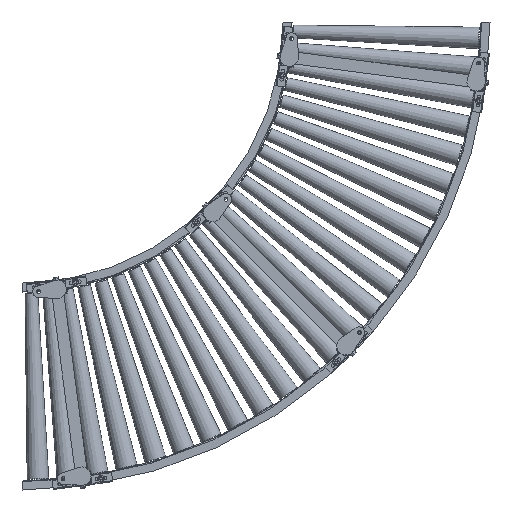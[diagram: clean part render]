
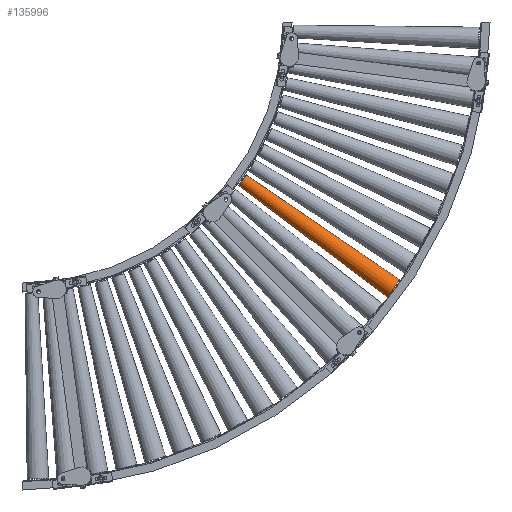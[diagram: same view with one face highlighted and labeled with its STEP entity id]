
A CAD part, front view. The second image highlights one B-rep face of the part: STEP entity #135996.
In plain terms, the highlighted conical face has half-angle 1.345 degrees and reference radius 35.9 mm.
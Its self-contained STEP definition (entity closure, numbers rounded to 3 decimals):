
#3444 = EDGE_CURVE ( 'NONE', #85838, #30092, #84588, .T. ) ;
#6799 = CARTESIAN_POINT ( 'NONE',  ( 1238.447, -35.89, -888.348 ) ) ;
#11544 = FACE_OUTER_BOUND ( 'NONE', #136651, .T. ) ;
#13012 = CARTESIAN_POINT ( 'NONE',  ( 1217.522, -35.89, -917.519 ) ) ;
#15353 = EDGE_CURVE ( 'NONE', #137984, #32886, #60637, .T. ) ;
#19403 = CARTESIAN_POINT ( 'NONE',  ( 1238.447, -35.89, -888.348 ) ) ;
#25048 = DIRECTION ( 'NONE',  ( 0.798, -0.023, -0.602 ) ) ;
#30092 = VERTEX_POINT ( 'NONE', #119616 ) ;
#32886 = VERTEX_POINT ( 'NONE', #98473 ) ;
#33463 = VECTOR ( 'NONE', #25048, 1000. ) ;
#34860 = ORIENTED_EDGE ( 'NONE', *, *, #82496, .F. ) ;
#45828 = DIRECTION ( 'NONE',  ( 0.583, 0., 0.813 ) ) ;
#49129 = AXIS2_PLACEMENT_3D ( 'NONE', #6799, #91367, #102947 ) ;
#58508 = CARTESIAN_POINT ( 'NONE',  ( 734.931, -21.344, -527.172 ) ) ;
#60150 = DIRECTION ( 'NONE',  ( 0.826, -0.023, -0.563 ) ) ;
#60637 = CIRCLE ( 'NONE', #110522, 35.9 ) ;
#70531 = DIRECTION ( 'NONE',  ( -0.812, 0.023, 0.583 ) ) ;
#74146 = VECTOR ( 'NONE', #60150, 1000. ) ;
#75307 = CONICAL_SURFACE ( 'NONE', #49129, 35.9, 0.023 ) ;
#82496 = EDGE_CURVE ( 'NONE', #30092, #32886, #106082, .T. ) ;
#83765 = CARTESIAN_POINT ( 'NONE',  ( 1259.372, -35.89, -859.176 ) ) ;
#84588 = CIRCLE ( 'NONE', #99823, 21.35 ) ;
#85838 = VERTEX_POINT ( 'NONE', #118246 ) ;
#91367 = DIRECTION ( 'NONE',  ( 0.812, -0.023, -0.583 ) ) ;
#97110 = ORIENTED_EDGE ( 'NONE', *, *, #15353, .T. ) ;
#98473 = CARTESIAN_POINT ( 'NONE',  ( 1259.372, -35.89, -859.176 ) ) ;
#99823 = AXIS2_PLACEMENT_3D ( 'NONE', #58508, #70531, #45828 ) ;
#102947 = DIRECTION ( 'NONE',  ( -0.583, 0., -0.813 ) ) ;
#106082 = LINE ( 'NONE', #83765, #74146 ) ;
#110522 = AXIS2_PLACEMENT_3D ( 'NONE', #19403, #115015, #127564 ) ;
#115015 = DIRECTION ( 'NONE',  ( -0.812, 0.023, 0.583 ) ) ;
#115365 = CARTESIAN_POINT ( 'NONE',  ( 1217.522, -35.89, -917.519 ) ) ;
#118082 = EDGE_CURVE ( 'NONE', #85838, #137984, #140648, .T. ) ;
#118246 = CARTESIAN_POINT ( 'NONE',  ( 722.487, -21.344, -544.52 ) ) ;
#119581 = ORIENTED_EDGE ( 'NONE', *, *, #3444, .F. ) ;
#119616 = CARTESIAN_POINT ( 'NONE',  ( 747.375, -21.344, -509.823 ) ) ;
#125689 = ORIENTED_EDGE ( 'NONE', *, *, #118082, .T. ) ;
#127564 = DIRECTION ( 'NONE',  ( 0.583, 0., 0.813 ) ) ;
#135996 = ADVANCED_FACE ( 'NONE', ( #11544 ), #75307, .T. ) ;
#136651 = EDGE_LOOP ( 'NONE', ( #34860, #119581, #125689, #97110 ) ) ;
#137984 = VERTEX_POINT ( 'NONE', #115365 ) ;
#140648 = LINE ( 'NONE', #13012, #33463 ) ;
